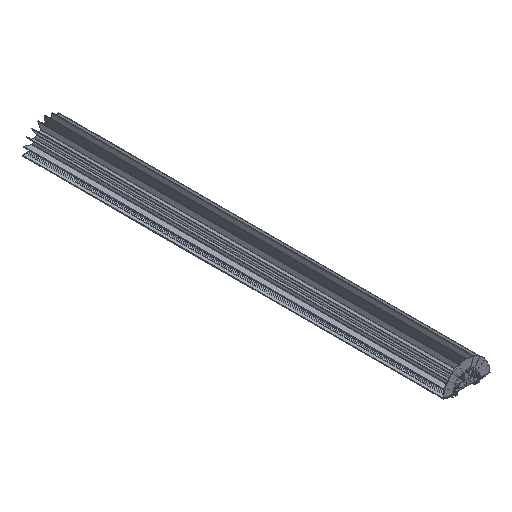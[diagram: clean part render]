
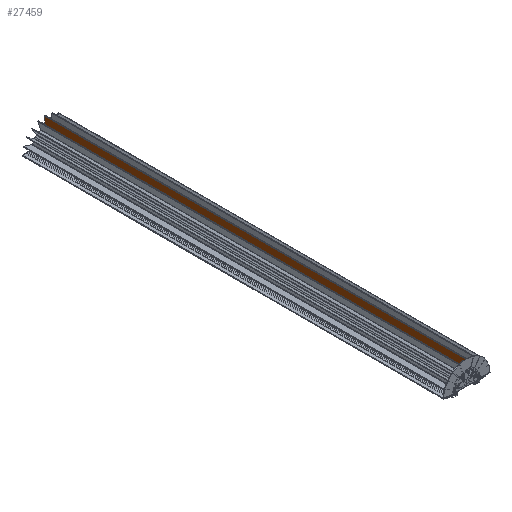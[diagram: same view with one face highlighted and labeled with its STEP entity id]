
A CAD part, isometric view. The second image highlights one B-rep face of the part: STEP entity #27459.
In plain terms, the highlighted free-form (B-spline) face has degree [2, 1] with [3, 3] control points.
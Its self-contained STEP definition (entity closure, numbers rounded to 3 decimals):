
#1734 = EDGE_CURVE ( 'NONE', #9113, #4712, #3954, .T. ) ;
#3954 = B_SPLINE_CURVE_WITH_KNOTS ( 'NONE', 2,
 ( #14594, #41377, #31175 ),
 .UNSPECIFIED., .F., .F.,
 ( 3, 3 ),
 ( 0., 0.042 ),
 .UNSPECIFIED. ) ;
#4437 = B_SPLINE_CURVE_WITH_KNOTS ( 'NONE', 2,
 ( #29139, #6121, #25847 ),
 .UNSPECIFIED., .F., .F.,
 ( 3, 3 ),
 ( 597.41, 638.956 ),
 .UNSPECIFIED. ) ;
#4712 = VERTEX_POINT ( 'NONE', #35798 ) ;
#6121 = CARTESIAN_POINT ( 'NONE',  ( -1.5, 3.2, 88.226 ) ) ;
#7462 = CARTESIAN_POINT ( 'NONE',  ( -1.5, 1803.2, 67.454 ) ) ;
#8345 = ORIENTED_EDGE ( 'NONE', *, *, #13626, .T. ) ;
#9113 = VERTEX_POINT ( 'NONE', #37201 ) ;
#9751 = FACE_OUTER_BOUND ( 'NONE', #31783, .T. ) ;
#13626 = EDGE_CURVE ( 'NONE', #15860, #41506, #4437, .T. ) ;
#14594 = CARTESIAN_POINT ( 'NONE',  ( -1.5, 2003.2, 108.999 ) ) ;
#15860 = VERTEX_POINT ( 'NONE', #31825 ) ;
#16159 = CARTESIAN_POINT ( 'NONE',  ( -1.5, 3.2, 67.454 ) ) ;
#16448 = B_SPLINE_SURFACE_WITH_KNOTS ( 'NONE', 2, 1, ( 
 ( #36726, #7462, #40510 ),
 ( #23700, #23922, #30969 ),
 ( #20366, #33856, #17483 ) ),
 .UNSPECIFIED., .F., .F., .F.,
 ( 3, 3 ),
 ( 2, 1, 2 ),
 ( 597.41, 638.956 ),
 ( 0., 1800., 2000. ),
 .UNSPECIFIED. ) ;
#17483 = CARTESIAN_POINT ( 'NONE',  ( -1.5, 2003.2, 108.999 ) ) ;
#18827 = CARTESIAN_POINT ( 'NONE',  ( -1.5, 1803.2, 67.454 ) ) ;
#20366 = CARTESIAN_POINT ( 'NONE',  ( -1.5, 3.2, 108.999 ) ) ;
#23700 = CARTESIAN_POINT ( 'NONE',  ( -1.5, 3.2, 88.226 ) ) ;
#23922 = CARTESIAN_POINT ( 'NONE',  ( -1.5, 1803.2, 88.226 ) ) ;
#25847 = CARTESIAN_POINT ( 'NONE',  ( -1.5, 3.2, 108.999 ) ) ;
#27459 = ADVANCED_FACE ( 'NONE', ( #9751 ), #16448, .T. ) ;
#28240 = ORIENTED_EDGE ( 'NONE', *, *, #39766, .F. ) ;
#29139 = CARTESIAN_POINT ( 'NONE',  ( -1.5, 3.2, 67.454 ) ) ;
#29531 = CARTESIAN_POINT ( 'NONE',  ( -1.5, 1803.2, 108.999 ) ) ;
#30042 = ORIENTED_EDGE ( 'NONE', *, *, #43315, .T. ) ;
#30969 = CARTESIAN_POINT ( 'NONE',  ( -1.5, 2003.2, 88.226 ) ) ;
#31175 = CARTESIAN_POINT ( 'NONE',  ( -1.5, 2003.2, 67.454 ) ) ;
#31783 = EDGE_LOOP ( 'NONE', ( #8345, #30042, #41511, #28240 ) ) ;
#31825 = CARTESIAN_POINT ( 'NONE',  ( -1.5, 3.2, 67.454 ) ) ;
#32326 = CARTESIAN_POINT ( 'NONE',  ( -1.5, 2003.2, 67.454 ) ) ;
#32795 = B_SPLINE_CURVE_WITH_KNOTS ( 'NONE', 1,
 ( #16159, #18827, #32326 ),
 .UNSPECIFIED., .F., .F.,
 ( 2, 1, 2 ),
 ( 0., 1800., 2000. ),
 .UNSPECIFIED. ) ;
#33501 = CARTESIAN_POINT ( 'NONE',  ( -1.5, 2003.2, 108.999 ) ) ;
#33856 = CARTESIAN_POINT ( 'NONE',  ( -1.5, 1803.2, 108.999 ) ) ;
#35798 = CARTESIAN_POINT ( 'NONE',  ( -1.5, 2003.2, 67.454 ) ) ;
#36726 = CARTESIAN_POINT ( 'NONE',  ( -1.5, 3.2, 67.454 ) ) ;
#37201 = CARTESIAN_POINT ( 'NONE',  ( -1.5, 2003.2, 108.999 ) ) ;
#38638 = B_SPLINE_CURVE_WITH_KNOTS ( 'NONE', 1,
 ( #39947, #29531, #33501 ),
 .UNSPECIFIED., .F., .F.,
 ( 2, 1, 2 ),
 ( 0., 1800., 2000. ),
 .UNSPECIFIED. ) ;
#39766 = EDGE_CURVE ( 'NONE', #15860, #4712, #32795, .T. ) ;
#39947 = CARTESIAN_POINT ( 'NONE',  ( -1.5, 3.2, 108.999 ) ) ;
#40510 = CARTESIAN_POINT ( 'NONE',  ( -1.5, 2003.2, 67.454 ) ) ;
#41377 = CARTESIAN_POINT ( 'NONE',  ( -1.5, 2003.2, 88.226 ) ) ;
#41506 = VERTEX_POINT ( 'NONE', #41761 ) ;
#41511 = ORIENTED_EDGE ( 'NONE', *, *, #1734, .T. ) ;
#41761 = CARTESIAN_POINT ( 'NONE',  ( -1.5, 3.2, 108.999 ) ) ;
#43315 = EDGE_CURVE ( 'NONE', #41506, #9113, #38638, .T. ) ;
